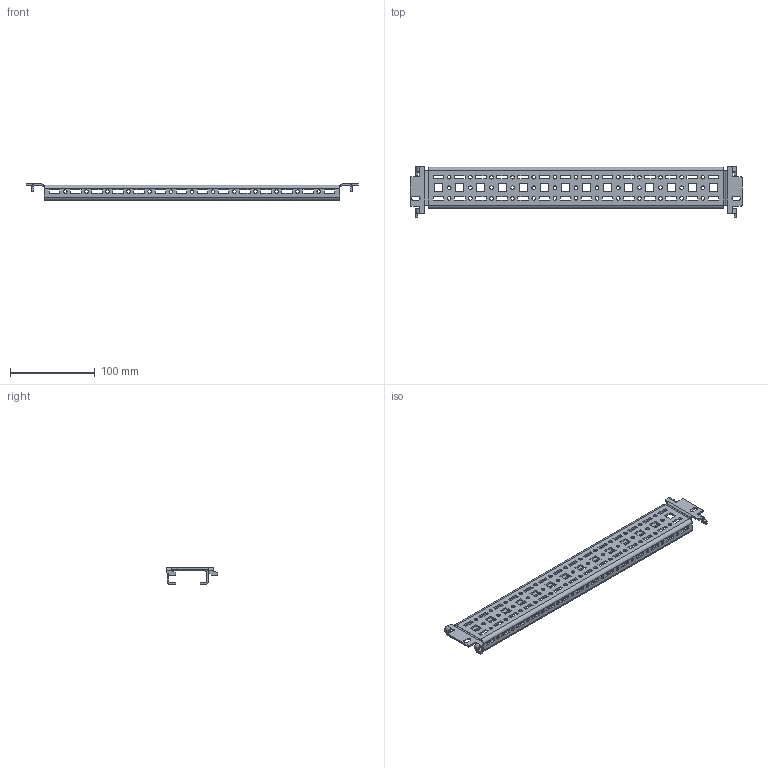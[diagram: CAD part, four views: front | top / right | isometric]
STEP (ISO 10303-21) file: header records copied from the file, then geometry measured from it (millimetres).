
FILE_DESCRIPTION (( 'STEP AP203' ), '1' );
FILE_NAME ('MMD 40.06 Øàññè ñèñòåìíîå.STEP', '2025-05-15T11:42:36', ( '' ), ( '' ), 'SwSTEP 2.0', 'SolidWorks 2019', '' );
FILE_SCHEMA (( 'CONFIG_CONTROL_DESIGN' ));
Length unit declared in the file: millimetre
Products named in the file (1): MMD 40.06 Øàññè ñèñòåìíîå
Bounding box: 392.72 x 60.5 x 20.03 mm (x, y, z)
Volume: 58388.6 mm3; surface area: 67255.3 mm2
Topology: 1 solids, 1 shells, 586 faces, 1672 edges, 1088 vertices
Faces by surface type: plane 386, cylinder 200
Entity records: 19637 total; most frequent: CARTESIAN_POINT 3415, ORIENTED_EDGE 3344, DIRECTION 3230, EDGE_CURVE 1672, VECTOR 1256, LINE 1256, VERTEX_POINT 1088, AXIS2_PLACEMENT_3D 987
